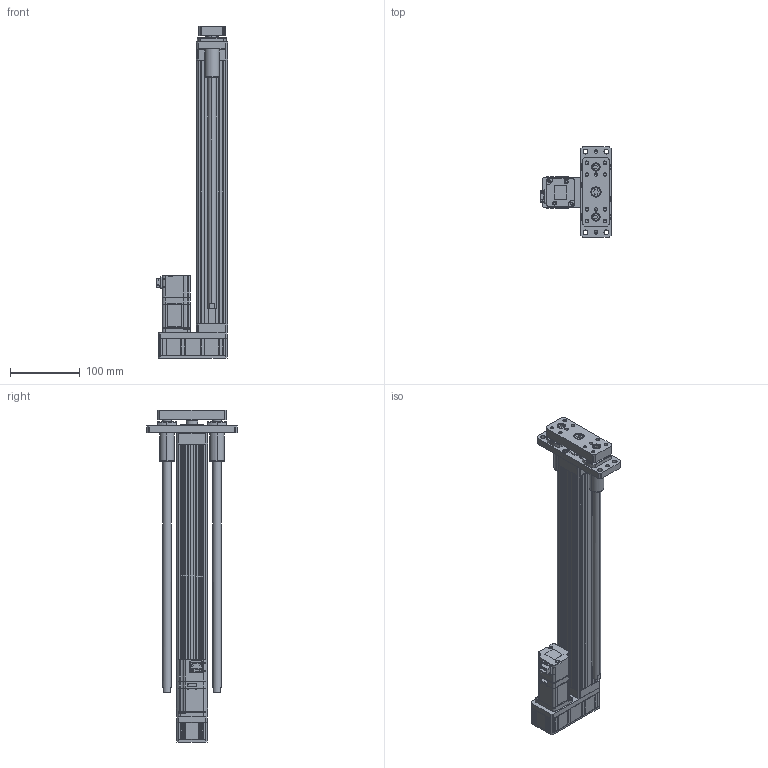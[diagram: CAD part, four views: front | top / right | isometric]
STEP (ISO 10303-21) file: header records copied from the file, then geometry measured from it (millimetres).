
FILE_DESCRIPTION (( 'STEP AP203' ), '1' );
FILE_NAME ('ANS045-GP300-05(10)-W10.STEP', '2019-02-14T03:13:07', ( 'user' ), ( '' ), 'SwSTEP 2.0', 'SolidWorks 2013', '' );
FILE_SCHEMA (( 'CONFIG_CONTROL_DESIGN' ));
Length unit declared in the file: millimetre
Products named in the file (4): ANS045 GP300 VER2; ANS045 ROD ST300 G; SGMJV_01A_A21; ANS045-GP300-05(10)-W10
Assembly tree (3 placements, depth 2):
  ANS045-GP300-05(10)-W10
    ANS045 GP300 VER2
    ANS045 ROD ST300 G
    SGMJV_01A_A21
Bounding box: 102.3 x 130 x 477.5 mm (x, y, z)
Volume: 952833.7 mm3; surface area: 314291.8 mm2
Topology: 3 solids, 23 shells, 1437 faces, 3610 edges, 2284 vertices
Faces by surface type: plane 766, cylinder 471, cone 194, torus 4, bspline 2
Entity records: 42978 total; most frequent: CARTESIAN_POINT 8067, DIRECTION 7202, ORIENTED_EDGE 7172, EDGE_CURVE 3586, AXIS2_PLACEMENT_3D 2403, LINE 2396, VECTOR 2396, VERTEX_POINT 2284
